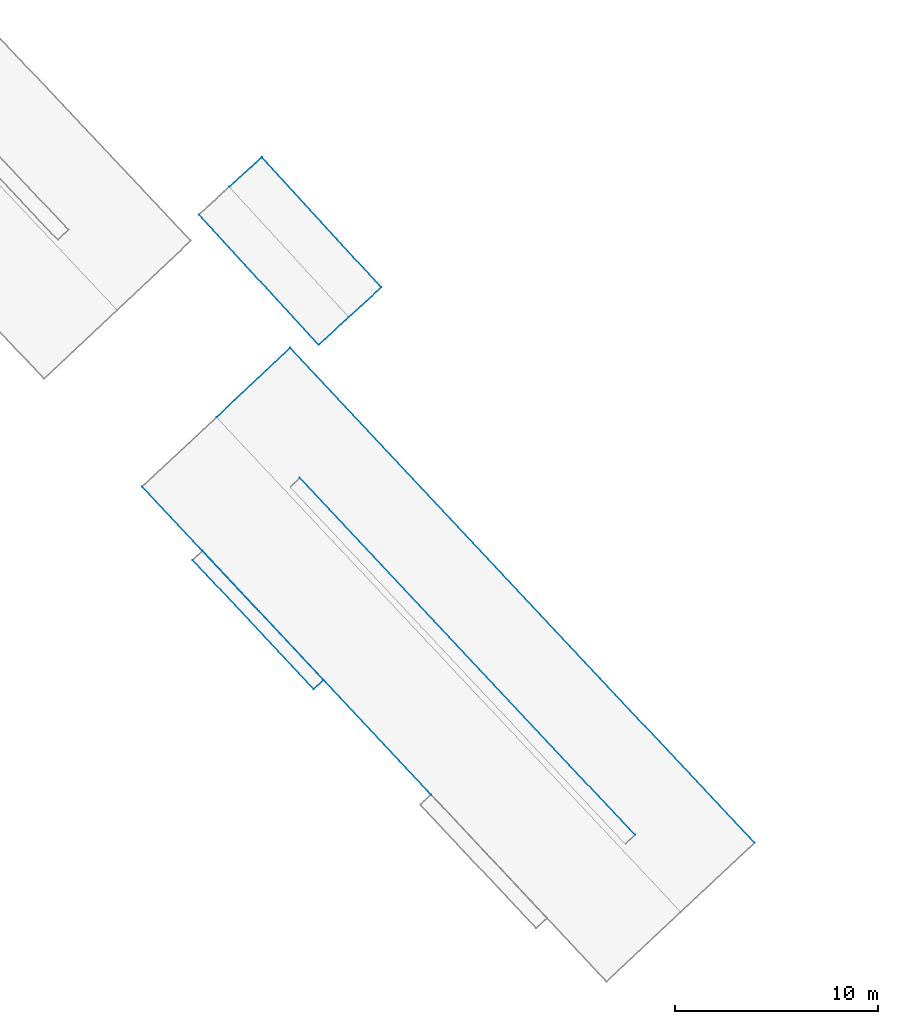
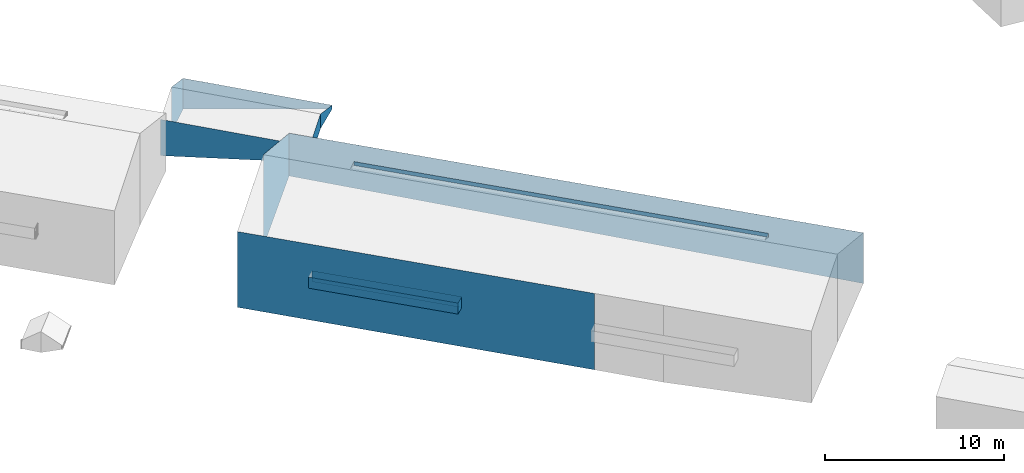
# Not in any storey, part 65 of 136: 15 walls.
"""IFC4 building model written with IfcOpenShell, lengths in metres."""

from ifc_helpers import new_model, entity, si_unit, converted_unit, frame, origin, place, context, subcontext, project, spatial, face_set, surface_model, element, save


model = new_model("IFC4")

# Units and contexts
model_context = context("Model", 3, precision=1e-05, world=origin())
body_context = subcontext(model_context, "Body", "Model", "MODEL_VIEW")
ifc_project = project(units=[converted_unit("PLANEANGLEUNIT", "DEGREE", entity("IfcRatioMeasure", 0.0174532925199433), si_unit("PLANEANGLEUNIT", "RADIAN"), dimensions=[0, 0, 0, 0, 0, 0, 0]), si_unit("AREAUNIT", "SQUARE_METRE"), si_unit("LENGTHUNIT", "METRE")], contexts=[model_context])

# Site, building
site_placement = place(None, origin())
site = spatial("IfcSite", under=ifc_project, at=site_placement, Name="_site")
building_1_placement = place(site_placement, origin())
building_1 = spatial("IfcBuilding", under=site, at=building_1_placement, Name="_building")

# Walls
wall_1_placement = place(building_1_placement, origin())
element("IfcWall", 1, at=wall_1_placement, inside=building_1, Name="Wall", PredefinedType="NOTDEFINED", context=body_context, shape_type="SurfaceModel", body=[
    surface_model("IfcFaceBasedSurfaceModel", [(74.81, 122.83, 42.25), (68.85, 129.19, 42.25), (68.85, 129.19, 43.0), (74.81, 122.83, 43.0)], [face_set([[[0, 1, 2, 3]]])]),
])
for number, where, name in (
    (2, (0.0, 0.0, 0.0), "Wall"),
    (3, (0.0, 0.0, 0.0), "Wall"),
):
    element("IfcWall", number, at=place(building_1_placement, frame(where)), inside=building_1, Name=name, PredefinedType="NOTDEFINED", context=body_context, shape_type="SurfaceModel", body=[
        surface_model("IfcFaceBasedSurfaceModel", [(69.33, 129.64, 42.25), (75.3, 123.28, 42.25), (75.3, 123.28, 43.0), (69.33, 129.64, 43.0)], [face_set([[[0, 1, 2, 3]]])]),
    ])
wall_2_placement = place(building_1_placement, origin())
element("IfcWall", 4, at=wall_2_placement, inside=building_1, Name="Wall", PredefinedType="NOTDEFINED", context=body_context, shape_type="SurfaceModel", body=[
    surface_model("IfcFaceBasedSurfaceModel", [(75.3, 123.28, 42.25), (74.81, 122.83, 42.25), (74.81, 122.83, 43.0), (75.3, 123.28, 43.0)], [face_set([[[0, 1, 2, 3]]])]),
])
wall_3_placement = place(building_1_placement, origin())
element("IfcWall", 5, at=wall_3_placement, inside=building_1, Name="Wall", PredefinedType="NOTDEFINED", context=body_context, shape_type="SurfaceModel", body=[
    surface_model("IfcFaceBasedSurfaceModel", [(70.01, 136.22, 46.66), (73.64, 139.64, 44.78), (73.64, 139.64, 41.865), (70.01, 136.22, 40.401)], [face_set([[[0, 1, 2, 3]]])]),
])
wall_4_placement = place(building_1_placement, origin())
element("IfcWall", 6, at=wall_4_placement, inside=building_1, Name="Wall", PredefinedType="NOTDEFINED", context=body_context, shape_type="SurfaceModel", body=[
    surface_model("IfcFaceBasedSurfaceModel", [(73.64, 139.64, 44.78), (96.52, 115.26, 44.78), (96.52, 115.26, 41.323), (73.64, 139.64, 41.865)], [face_set([[[0, 1, 2, 3]]])]),
])
wall_5_placement = place(building_1_placement, origin())
element("IfcWall", 7, at=wall_5_placement, inside=building_1, Name="Wall", PredefinedType="NOTDEFINED", context=body_context, shape_type="SurfaceModel", body=[
    surface_model("IfcFaceBasedSurfaceModel", [(74.12, 133.24, 46.56), (90.63, 115.65, 46.56), (90.63, 115.65, 46.298), (74.12, 133.24, 46.299)], [face_set([[[0, 1, 2, 3]]])]),
])
wall_6_placement = place(building_1_placement, origin())
element("IfcWall", 8, at=wall_6_placement, inside=building_1, Name="Wall", PredefinedType="NOTDEFINED", context=body_context, shape_type="SurfaceModel", body=[
    surface_model("IfcFaceBasedSurfaceModel", [(80.59, 117.64, 44.78), (66.36, 132.8, 44.78), (66.36, 132.8, 39.634), (80.59, 117.64, 39.589)], [face_set([[[0, 1, 2, 3]]])]),
])
wall_7_placement = place(building_1_placement, origin())
element("IfcWall", 9, at=wall_7_placement, inside=building_1, Name="Wall", PredefinedType="NOTDEFINED", context=body_context, shape_type="SurfaceModel", body=[
    surface_model("IfcFaceBasedSurfaceModel", [(75.3, 123.28, 42.25), (74.81, 122.83, 42.25), (74.81, 122.83, 43.0), (75.3, 123.28, 43.0)], [face_set([[[0, 1, 2, 3]]])]),
])
wall_8_placement = place(building_1_placement, origin())
element("IfcWall", 10, at=wall_8_placement, inside=building_1, Name="Wall", PredefinedType="NOTDEFINED", context=body_context, shape_type="SurfaceModel", body=[
    surface_model("IfcFaceBasedSurfaceModel", [(74.81, 122.83, 42.25), (68.85, 129.19, 42.25), (68.85, 129.19, 43.0), (74.81, 122.83, 43.0)], [face_set([[[0, 1, 2, 3]]])]),
])

# Building
building_2_placement = place(site_placement, origin())
building_2 = spatial("IfcBuilding", under=site, at=building_2_placement, Name="_building")

# Walls
wall_9_placement = place(building_2_placement, origin())
element("IfcWall", 11, at=wall_9_placement, inside=building_2, Name="Wall", PredefinedType="NOTDEFINED", context=body_context, shape_type="SurfaceModel", body=[
    surface_model("IfcFaceBasedSurfaceModel", [(75.04, 139.79, 43.3), (69.16, 146.21, 43.3), (69.16, 146.21, 40.837), (75.04, 139.79, 42.205)], [face_set([[[0, 1, 2, 3]]])]),
])
wall_10_placement = place(building_2_placement, origin())
element("IfcWall", 12, at=wall_10_placement, inside=building_2, Name="Wall", PredefinedType="NOTDEFINED", context=body_context, shape_type="SurfaceModel", body=[
    surface_model("IfcFaceBasedSurfaceModel", [(76.53, 141.15, 44.16), (75.04, 139.79, 43.3), (75.04, 139.79, 42.205), (76.53, 141.15, 43.167)], [face_set([[[0, 1, 2, 3]]])]),
])
wall_11_placement = place(building_2_placement, origin())
element("IfcWall", 13, at=wall_11_placement, inside=building_2, Name="Wall", PredefinedType="NOTDEFINED", context=body_context, shape_type="SurfaceModel", body=[
    surface_model("IfcFaceBasedSurfaceModel", [(72.25, 149.04, 43.3), (78.13, 142.62, 43.3), (78.13, 142.62, 43.046), (72.25, 149.04, 41.215)], [face_set([[[0, 1, 2, 3]]])]),
])
wall_12_placement = place(building_2_placement, origin())
element("IfcWall", 14, at=wall_12_placement, inside=building_2, Name="Wall", PredefinedType="NOTDEFINED", context=body_context, shape_type="SurfaceModel", body=[
    surface_model("IfcFaceBasedSurfaceModel", [(78.13, 142.62, 43.3), (76.53, 141.15, 44.16), (76.53, 141.15, 43.167), (78.13, 142.62, 43.046)], [face_set([[[0, 1, 2, 3]]])]),
])
wall_13_placement = place(building_2_placement, origin())
element("IfcWall", 15, at=wall_13_placement, inside=building_2, Name="Wall", PredefinedType="NOTDEFINED", context=body_context, shape_type="SurfaceModel", body=[
    surface_model("IfcFaceBasedSurfaceModel", [(70.64, 147.57, 44.16), (72.25, 149.04, 43.3), (72.25, 149.04, 41.215), (70.64, 147.57, 41.055)], [face_set([[[0, 1, 2, 3]]])]),
])

save(model, "model.ifc")
